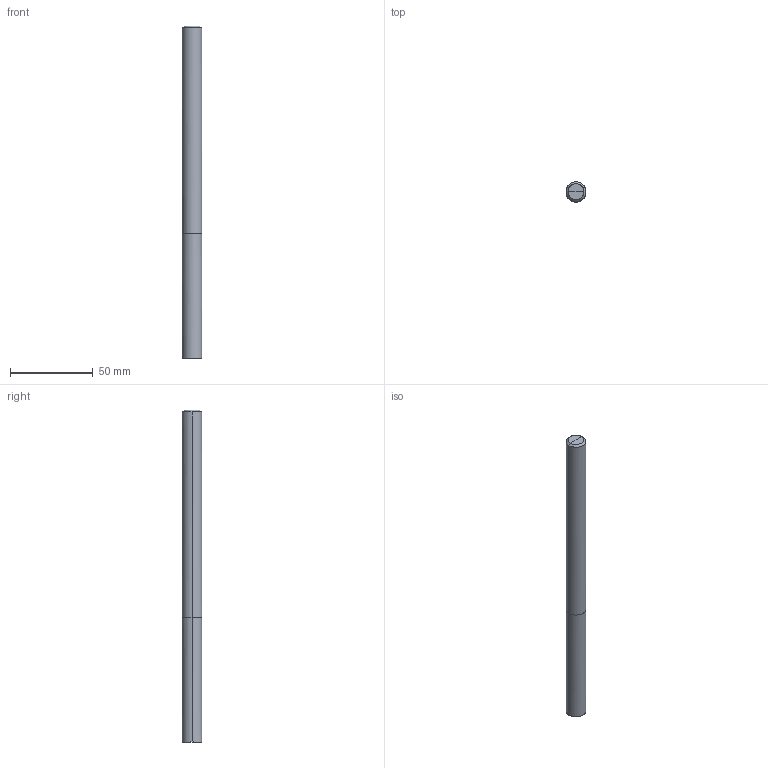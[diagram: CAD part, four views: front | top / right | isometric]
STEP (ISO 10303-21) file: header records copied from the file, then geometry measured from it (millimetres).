
FILE_DESCRIPTION(/* description */ (''),/* implementation_level */ '2;1');
FILE_NAME(/*name*/ '2121-12',/*time_stamp*/'2021-6-28T13:24:32',/*author*/ ('ISBE GmbH'),/*organization*/ ('ISBE GmbH'),/*preprocessor_version*/ 'STEP IO v1.0',/*originating_system*/ '',/*authorisation*/ '');
FILE_SCHEMA (('AUTOMOTIVE_DESIGN'));
Length unit declared in the file: millimetre
Products named in the file (1): Document
Bounding box: 12 x 11.99 x 200 mm (x, y, z)
Surface area: 7975.1 mm2 (no closed solid volume)
Topology: 0 solids, 14 shells, 14 faces, 58 edges, 52 vertices
Faces by surface type: bspline 14
Entity records: 1907 total; most frequent: CARTESIAN_POINT 1642, VERTEX_POINT 48, EDGE_CURVE 48, ORIENTED_EDGE 48, DIRECTION 16, EDGE_LOOP 14, FACE_OUTER_BOUND 14, ADVANCED_FACE 14
